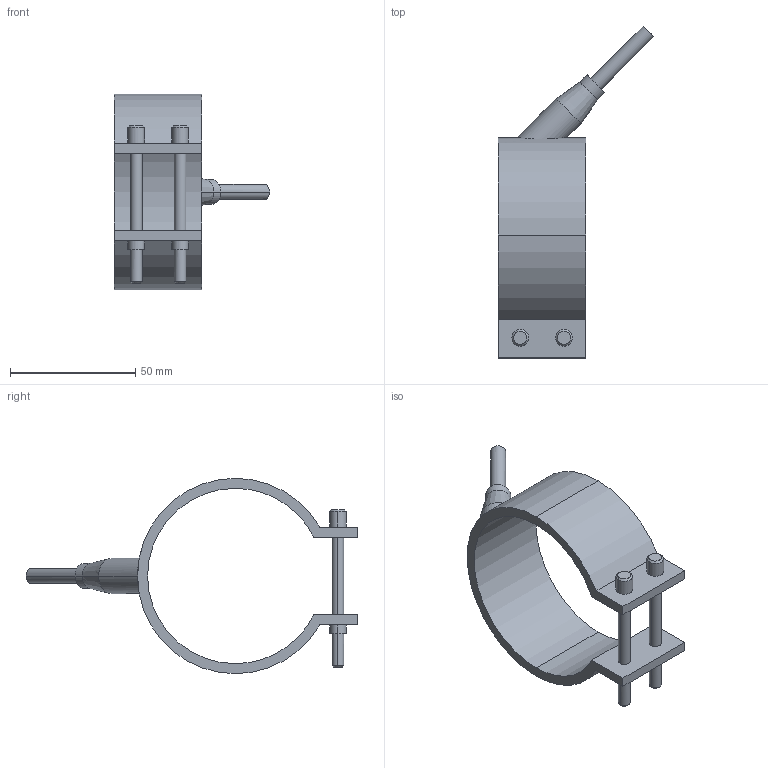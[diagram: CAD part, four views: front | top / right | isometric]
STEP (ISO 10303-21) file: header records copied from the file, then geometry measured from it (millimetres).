
FILE_DESCRIPTION(('CATIA V5 STEP Exchange'),'2;1');
FILE_NAME('C:\Users\Utente\Desktop\IO LAVORO\3D X SITO CF\X SITO\PLASTICA\RF1\29070035.stp','2021-03-27T09:43:34+00:00',('none'),('none'),'CATIA Version 5 Release 20 GA (IN-10)','CATIA V5 STEP AP203','none');
FILE_SCHEMA(('CONFIG_CONTROL_DESIGN'));
Length unit declared in the file: millimetre
Products named in the file (1): 29070035
Bounding box: 62.05 x 132.55 x 78 mm (x, y, z)
Volume: 39066.8 mm3; surface area: 21432.6 mm2
Topology: 1 solids, 1 shells, 54 faces, 126 edges, 82 vertices
Faces by surface type: cylinder 28, plane 16, cone 10
Entity records: 1761 total; most frequent: CARTESIAN_POINT 514, ORIENTED_EDGE 252, DIRECTION 213, EDGE_CURVE 126, AXIS2_PLACEMENT_3D 106, VERTEX_POINT 82, EDGE_LOOP 66, VECTOR 56
